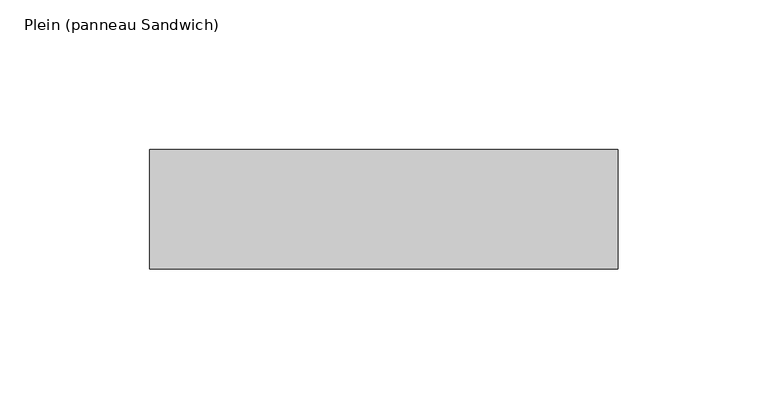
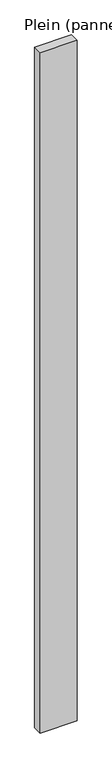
"""IFC4 building model written with IfcOpenShell, lengths in millimetres: plate geometry, Plein (panneau Sandwich)."""

from ifc_helpers import new_model, si_unit, origin, origin_with_axes, place, context, project, spatial, polyline, outline, extrude, source, transform, mapped, element, save


def plein_panneau_sandwich_fa609b6d(model_context):
    return source(origin(), model_context, "Body", "SweptSolid", [
        extrude(outline(polyline([(-78.4062498, -20.0), (-78.4062498, 20.0), (78.4062498, 20.0), (78.4062498, -20.0), (-78.4062498, -20.0)])), origin_with_axes(), (0.0, 0.0, 1.0), 3042.625),
    ])


if __name__ == "__main__":
    model = new_model("IFC4")
    model_context = context("Model", 3, world=origin())
    ifc_project = project(units=[si_unit("LENGTHUNIT", "METRE", prefix="MILLI")], contexts=[model_context])
    site = spatial("IfcSite", under=ifc_project)
    building = spatial("IfcBuilding", under=site)
    placement = place(None, origin())
    plein_panneau_sandwich_shape = plein_panneau_sandwich_fa609b6d(model_context)
    element("IfcPlate", 1, ObjectType="Plein (panneau Sandwich)", at=placement, inside=building, context=model_context, shape_type="MappedRepresentation", body=[
        mapped(plein_panneau_sandwich_shape, transform((0.0, 0.0, 0.0), x_axis=(1.0, 0.0, 0.0), y_axis=(0.0, 1.0, 0.0), z_axis=(0.0, 0.0, 1.0))),
    ])
    save(model, "model.ifc")
